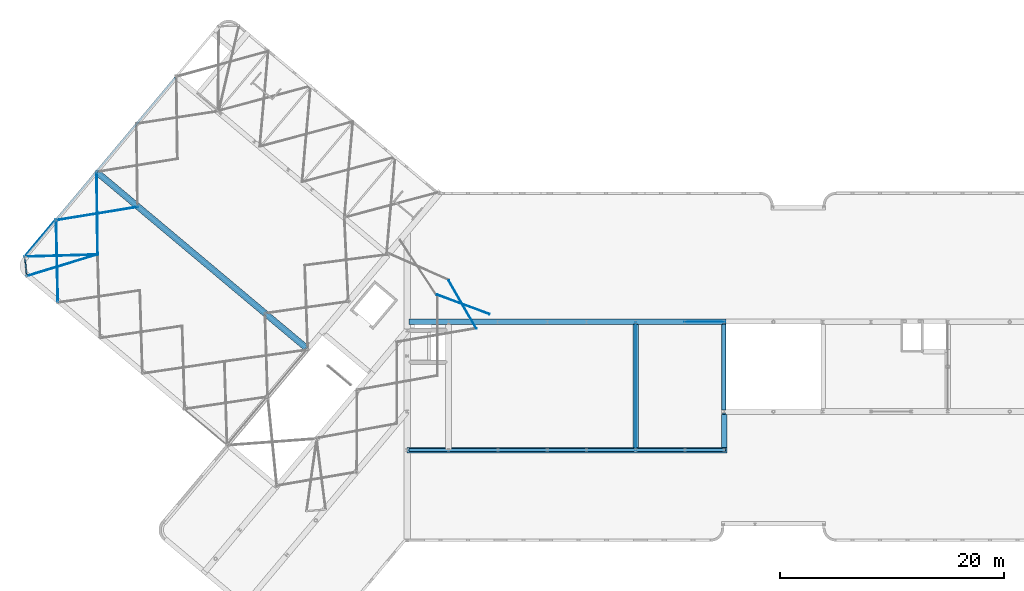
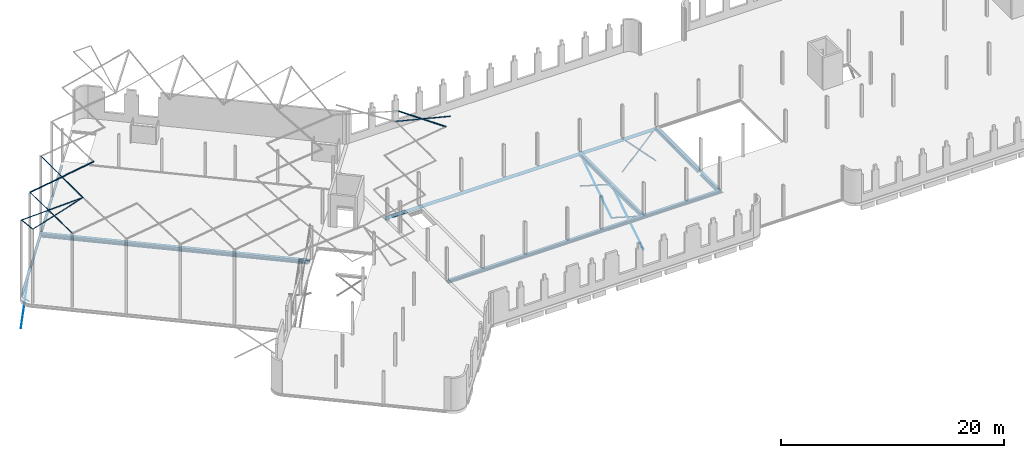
# One storey, part 15 of 25: 28 beams.
"""IFC2X3 building model written with IfcOpenShell, lengths in millimetres."""

from ifc_helpers import new_model, entity, si_unit, converted_unit, derived_unit, direction, frame, frame_2d, origin, origin_2d_with_axis, place, context, subcontext, project, spatial, polyline, circle_curve, parameter, trimmed, segment, composite_curve, rectangle, i_section, outline, extrude, material, type_object, element, save


model = new_model("IFC2X3")

# Units and contexts
model_context = context("Model", 3, precision=0.01, world=origin(), true_north=direction((6.123031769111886e-17, 1.0)))
body_context = subcontext(model_context, "Body", "Model", "MODEL_VIEW")
ifc_project = project(units=[si_unit("LENGTHUNIT", "METRE", prefix="MILLI"), si_unit("AREAUNIT", "SQUARE_METRE"), si_unit("VOLUMEUNIT", "CUBIC_METRE"), derived_unit("MASSDENSITYUNIT", [(si_unit("MASSUNIT", "GRAM", prefix="KILO"), 1), (si_unit("LENGTHUNIT", "METRE"), -3)]), si_unit("MASSUNIT", "GRAM", prefix="KILO"), converted_unit("PLANEANGLEUNIT", "DEGREE", entity("IfcPlaneAngleMeasure", 0.017453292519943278), si_unit("PLANEANGLEUNIT", "RADIAN"), dimensions=[0, 0, 0, 0, 0, 0, 0])], contexts=[model_context])

# Site, building, storey
site_placement = place(None, origin())
site = spatial("IfcSite", under=ifc_project, at=site_placement, Name="Default", CompositionType="ELEMENT")
building_placement = place(site_placement, origin())
building = spatial("IfcBuilding", under=site, at=building_placement, Name="AT constructie", CompositionType="ELEMENT")
storey_placement = place(building_placement, frame((0.0, 0.0, 3864.0)))
storey = spatial("IfcBuildingStorey", under=building, at=storey_placement, Name="01 eerste verdieping", CompositionType="ELEMENT", Elevation=3864.0)

# Beams
ifc_material = material(Name="h2_staal_S355")
beam_type_1 = type_object("IfcBeamType", Name="balk strip liggend_gen_500x15", PredefinedType="NOTDEFINED")
beam_1_placement = place(storey_placement, frame((41296.874631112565, 31271.043508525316, 0.0)))
element("IfcBeam", 1, at=beam_1_placement, inside=storey, type_object=beam_type_1, material=ifc_material, Name="NLRS_28_SF_LIB_balk strip_gen_AT:balk strip liggend_gen_500x15", ObjectType="NLRS_28_SF_LIB_balk strip_gen_AT:balk strip liggend_gen_500x15", context=body_context, shape_type="SweptSolid", body=[
    extrude(rectangle(XDim=14.999999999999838, YDim=499.999999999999, at=frame_2d((0.0, 4.334310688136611e-12), x_axis=(1.0, 0.0))), frame((0.0, 0.0, -377.50000000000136), z_axis=(1.0, 0.0, 0.0), x_axis=(0.0, 0.0, -1.0)), (0.0, 0.0, 1.0), 28299.99999939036),
])
beam_2_placement = place(storey_placement, frame((41146.87463111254, 19821.043508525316, 0.0)))
element("IfcBeam", 2, at=beam_2_placement, inside=storey, type_object=beam_type_1, material=ifc_material, Name="NLRS_28_SF_LIB_balk strip_gen_AT:balk strip liggend_gen_500x15", ObjectType="NLRS_28_SF_LIB_balk strip_gen_AT:balk strip liggend_gen_500x15", context=body_context, shape_type="SweptSolid", body=[
    extrude(rectangle(XDim=14.999999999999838, YDim=499.999999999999, at=origin_2d_with_axis()), frame((6.096022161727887e-07, 0.0, -377.50000000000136), z_axis=(1.0, 0.0, 0.0), x_axis=(0.0, 0.0, -1.0)), (0.0, 0.0, 1.0), 28549.99999939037),
])
beam_3_placement = place(storey_placement, frame((69446.87463111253, 23021.043508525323, 0.0), z_axis=(0.0, 0.0, 1.0), x_axis=(0.0, -1.0, 0.0)))
element("IfcBeam", 3, at=beam_3_placement, inside=storey, type_object=beam_type_1, material=ifc_material, Name="NLRS_28_SF_LIB_balk strip_gen_AT:balk strip liggend_gen_500x15", ObjectType="NLRS_28_SF_LIB_balk strip_gen_AT:balk strip liggend_gen_500x15", context=body_context, shape_type="SweptSolid", body=[
    extrude(rectangle(XDim=14.999999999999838, YDim=499.999999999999, at=frame_2d((0.0, -4.334310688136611e-12), x_axis=(1.0, 0.0))), frame((0.0, 0.0, -377.50000000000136), z_axis=(1.0, 0.0, 0.0), x_axis=(0.0, 0.0, -1.0)), (0.0, 0.0, 1.0), 2950.0000000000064),
])
beam_4_placement = place(storey_placement, frame((61546.87463111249, 31021.04350852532, 0.0), z_axis=(0.0, 0.0, 1.0), x_axis=(0.0, -1.0, 0.0)))
element("IfcBeam", 4, at=beam_4_placement, inside=storey, type_object=beam_type_1, material=ifc_material, Name="NLRS_28_SF_LIB_balk strip_gen_AT:balk strip liggend_gen_500x15", ObjectType="NLRS_28_SF_LIB_balk strip_gen_AT:balk strip liggend_gen_500x15", context=body_context, shape_type="SweptSolid", body=[
    extrude(rectangle(XDim=14.999999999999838, YDim=499.999999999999, at=frame_2d((0.0, -4.334310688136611e-12), x_axis=(1.0, 0.0))), frame((0.0, 0.0, -377.50000000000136), z_axis=(1.0, 0.0, 0.0), x_axis=(0.0, 0.0, -1.0)), (0.0, 0.0, 1.0), 10949.99999999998),
])
beam_type_2 = type_object("IfcBeamType", Name="balk HE_gen_HEB260", PredefinedType="NOTDEFINED")
beam_5_placement = place(storey_placement, frame((41296.874631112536, 19821.043508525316, 0.0)))
element("IfcBeam", 5, at=beam_5_placement, inside=storey, type_object=beam_type_2, material=ifc_material, Name="NLRS_28_SF_LIB_balk HEB_gen_AT:balk HE_gen_HEB260", ObjectType="NLRS_28_SF_LIB_balk HEB_gen_AT:balk HE_gen_HEB260", context=body_context, shape_type="SweptSolid", body=[
    extrude(i_section(OverallWidth=260.00000000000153, OverallDepth=259.9999999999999, WebThickness=9.999999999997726, FlangeThickness=17.49999999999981, FilletRadius=23.99999999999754, at=frame_2d((2.7000623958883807e-13, 4.320099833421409e-12), x_axis=(0.0, 1.0))), frame((0.0, 0.0, -240.0), z_axis=(1.0, 0.0, 0.0), x_axis=(0.0, 0.0, -1.0)), (0.0, 0.0, 1.0), 28279.99999999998),
])
beam_6_placement = place(storey_placement, frame((69446.87463111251, 31141.043508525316, 0.0), z_axis=(0.0, 0.0, 1.0), x_axis=(0.0, -1.0, 0.0)))
element("IfcBeam", 6, at=beam_6_placement, inside=storey, type_object=beam_type_2, material=ifc_material, Name="NLRS_28_SF_LIB_balk HEB_gen_AT:balk HE_gen_HEB260", ObjectType="NLRS_28_SF_LIB_balk HEB_gen_AT:balk HE_gen_HEB260", context=body_context, shape_type="SweptSolid", body=[
    extrude(i_section(OverallWidth=259.9999999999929, OverallDepth=259.9999999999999, WebThickness=9.999999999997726, FlangeThickness=17.49999999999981, FilletRadius=24.000000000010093, at=frame_2d((2.7000623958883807e-13, 4.320099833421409e-12), x_axis=(0.0, 1.0))), frame((0.0, 0.0, -240.0), z_axis=(1.0, 0.0, 0.0), x_axis=(0.0, 0.0, -1.0)), (0.0, 0.0, 1.0), 7740.0),
])
beam_7_placement = place(storey_placement, frame((69446.8746311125, 23141.043508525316, 0.0), z_axis=(0.0, 0.0, 1.0), x_axis=(0.0, -1.0, 0.0)))
element("IfcBeam", 7, at=beam_7_placement, inside=storey, type_object=beam_type_2, material=ifc_material, Name="NLRS_28_SF_LIB_balk HEB_gen_AT:balk HE_gen_HEB260", ObjectType="NLRS_28_SF_LIB_balk HEB_gen_AT:balk HE_gen_HEB260", context=body_context, shape_type="SweptSolid", body=[
    extrude(i_section(OverallWidth=260.00000000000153, OverallDepth=259.9999999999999, WebThickness=9.999999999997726, FlangeThickness=17.49999999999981, FilletRadius=24.000000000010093, at=frame_2d((2.7000623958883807e-13, 4.320099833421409e-12), x_axis=(0.0, 1.0))), frame((0.0, 0.0, -240.0), z_axis=(1.0, 0.0, 0.0), x_axis=(0.0, 0.0, -1.0)), (0.0, 0.0, 1.0), 3189.9999999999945),
])
beam_8_placement = place(storey_placement, frame((61546.87463111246, 31141.04350852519, 0.0), z_axis=(0.0, 0.0, 1.0), x_axis=(0.0, -1.0, 0.0)))
element("IfcBeam", 8, at=beam_8_placement, inside=storey, type_object=beam_type_2, material=ifc_material, Name="NLRS_28_SF_LIB_balk HEB_gen_AT:balk HE_gen_HEB260", ObjectType="NLRS_28_SF_LIB_balk HEB_gen_AT:balk HE_gen_HEB260", context=body_context, shape_type="SweptSolid", body=[
    extrude(i_section(OverallWidth=259.9999999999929, OverallDepth=259.9999999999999, WebThickness=9.999999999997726, FlangeThickness=17.50000000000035, FilletRadius=24.0, at=frame_2d((2.7000623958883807e-13, -8.65441052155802e-12), x_axis=(0.0, 1.0))), frame((0.0, 0.0, -240.0), z_axis=(1.0, 0.0, 0.0), x_axis=(0.0, 0.0, -1.0)), (0.0, 0.0, 1.0), 11189.999999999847),
])
beam_type_3 = type_object("IfcBeamType", Name="balk strip liggend_gen_400x15", PredefinedType="NOTDEFINED")
beam_9_placement = place(storey_placement, frame((69396.87463111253, 31021.043508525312, 0.0), z_axis=(0.0, 0.0, 1.0), x_axis=(0.0, -1.0, 0.0)))
element("IfcBeam", 9, at=beam_9_placement, inside=storey, type_object=beam_type_3, material=ifc_material, Name="NLRS_28_SF_LIB_balk strip_gen_AT:balk strip liggend_gen_400x15", ObjectType="NLRS_28_SF_LIB_balk strip_gen_AT:balk strip liggend_gen_400x15", context=body_context, shape_type="SweptSolid", body=[
    extrude(rectangle(XDim=14.999999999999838, YDim=400.0000000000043, at=frame_2d((0.0, 4.334310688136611e-12), x_axis=(1.0, 0.0))), frame((0.0, 0.0, -377.50000000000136), z_axis=(1.0, 0.0, 0.0), x_axis=(0.0, 0.0, -1.0)), (0.0, 0.0, 1.0), 7599.999999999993),
])
beam_type_4 = type_object("IfcBeamType", Name="balk HE_gen_HEB320", PredefinedType="NOTDEFINED")
beam_10_placement = place(storey_placement, frame((13323.429675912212, 44743.48184549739, 0.0), z_axis=(0.0, 0.0, 1.0), x_axis=(0.7660444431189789, -0.6427876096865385, 0.0)))
element("IfcBeam", 10, at=beam_10_placement, inside=storey, type_object=beam_type_4, material=ifc_material, Name="NLRS_28_SF_LIB_balk HEB_gen_AT:balk HE_gen_HEB320", ObjectType="NLRS_28_SF_LIB_balk HEB_gen_AT:balk HE_gen_HEB320", context=body_context, shape_type="SweptSolid", body=[
    extrude(i_section(OverallWidth=299.9999999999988, OverallDepth=319.9999999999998, WebThickness=11.499999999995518, FlangeThickness=20.500000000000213, FilletRadius=26.99999999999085, at=frame_2d((-1.0942358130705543e-12, 5.4143356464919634e-12), x_axis=(0.0, 1.0))), frame((0.0, 0.0, -431.0), z_axis=(1.0, 0.0, 0.0), x_axis=(0.0, 0.0, -1.0)), (0.0, 0.0, 1.0), 24637.49999999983),
])
beam_type_5 = type_object("IfcBeamType", Name="balk strip liggend_gen_560x20", PredefinedType="NOTDEFINED")
beam_11_placement = place(storey_placement, frame((13323.429675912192, 44743.48184549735, 0.0), z_axis=(0.0, 0.0, 1.0), x_axis=(0.7660444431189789, -0.6427876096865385, 0.0)))
element("IfcBeam", 11, at=beam_11_placement, inside=storey, type_object=beam_type_5, material=ifc_material, Name="NLRS_28_SF_LIB_balk strip_gen_AT:balk strip liggend_gen_560x20", ObjectType="NLRS_28_SF_LIB_balk strip_gen_AT:balk strip liggend_gen_560x20", context=body_context, shape_type="SweptSolid", body=[
    extrude(rectangle(XDim=19.999999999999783, YDim=559.9999999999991, at=origin_2d_with_axis()), frame((0.0, 0.0, -601.0), z_axis=(1.0, 0.0, 0.0), x_axis=(0.0, 0.0, -1.0)), (0.0, 0.0, 1.0), 24517.499999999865),
])
beam_type_6 = type_object("IfcBeamType", Name="balk HE_gen_HEA180", PredefinedType="NOTDEFINED")
beam_12_placement = place(storey_placement, frame((7105.844594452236, 37174.19079515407, 0.0), z_axis=(0.0, 0.0, 1.0), x_axis=(0.6427876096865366, 0.7660444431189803, 0.0)))
element("IfcBeam", 12, at=beam_12_placement, inside=storey, type_object=beam_type_6, material=ifc_material, Name="NLRS_28_SF_LIB_balk HEA_gen_AT:balk HE_gen_HEA180", ObjectType="NLRS_28_SF_LIB_balk HEA_gen_AT:balk HE_gen_HEA180", context=body_context, shape_type="SweptSolid", body=[
    extrude(i_section(OverallWidth=179.9999999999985, OverallDepth=171.0000000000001, WebThickness=6.000000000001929, FlangeThickness=9.500000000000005, FilletRadius=15.00000000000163, at=frame_2d((0.0, -1.6555645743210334e-12), x_axis=(0.0, 1.0))), frame((0.0, 0.0, -505.4999999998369), z_axis=(1.0, 0.0, 0.0), x_axis=(0.0, 0.0, -1.0)), (0.0, 0.0, 1.0), 20770.00000000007),
])
beam_type_7 = type_object("IfcBeamType", Name="balk strip liggend_gen_120x10", PredefinedType="NOTDEFINED")
beam_13_placement = place(storey_placement, frame((9744.136482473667, 40403.9494414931, -505.49999999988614), z_axis=(-0.3992921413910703, -0.47585784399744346, 0.7836613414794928), x_axis=(-0.5037278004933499, -0.6003194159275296, -0.6211882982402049)))
element("IfcBeam", 13, at=beam_13_placement, inside=storey, type_object=beam_type_7, material=ifc_material, Name="NLRS_28_SF_LIB_balk strip_gen_AT:balk strip liggend_gen_120x10", ObjectType="NLRS_28_SF_LIB_balk strip_gen_AT:balk strip liggend_gen_120x10", context=body_context, shape_type="SweptSolid", body=[
    extrude(rectangle(XDim=119.99999999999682, YDim=10.000000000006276, at=frame_2d((4.934719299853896e-12, -9.300560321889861e-12), x_axis=(1.0, 0.0))), frame((0.0, -5.0, 0.0), z_axis=(1.0, 0.0, 0.0), x_axis=(0.0, 0.0, -1.0)), (0.0, 0.0, 1.0), 5487.064082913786),
])
beam_14_placement = place(storey_placement, frame((6980.149760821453, 37109.95833608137, -428.97382198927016), z_axis=(0.40472656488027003, 0.48233433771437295, 0.7768848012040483), x_axis=(0.4993719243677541, 0.5951282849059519, -0.6296427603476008)))
element("IfcBeam", 14, at=beam_14_placement, inside=storey, type_object=beam_type_7, material=ifc_material, Name="NLRS_28_SF_LIB_balk strip_gen_AT:balk strip liggend_gen_120x10", ObjectType="NLRS_28_SF_LIB_balk strip_gen_AT:balk strip liggend_gen_120x10", context=body_context, shape_type="SweptSolid", body=[
    extrude(rectangle(XDim=120.00000000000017, YDim=10.000000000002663, at=frame_2d((-1.886490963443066e-12, 1.3917755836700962e-12), x_axis=(1.0, 0.0))), frame((0.0, 5.0, 0.0), z_axis=(1.0, 0.0, 0.0), x_axis=(0.0, 0.0, -1.0)), (0.0, 0.0, 1.0), 5534.926147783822),
])
beam_15_placement = place(storey_placement, frame((65946.87463111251, 31281.04350854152, -240.0), z_axis=(0.7240441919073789, 0.0, 0.689753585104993), x_axis=(0.689753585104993, 0.0, -0.7240441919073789)))
element("IfcBeam", 15, at=beam_15_placement, inside=storey, type_object=beam_type_7, material=ifc_material, Name="NLRS_28_SF_LIB_balk strip_gen_AT:balk strip liggend_gen_120x10", ObjectType="NLRS_28_SF_LIB_balk strip_gen_AT:balk strip liggend_gen_120x10", context=body_context, shape_type="SweptSolid", body=[
    extrude(rectangle(XDim=120.00000000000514, YDim=10.000000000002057, at=frame_2d((1.8829382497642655e-13, -4.331646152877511e-12), x_axis=(1.0, 0.0))), frame((0.0, -5.0, 0.0), z_axis=(1.0, 0.0, 0.0), x_axis=(0.0, 0.0, -1.0)), (0.0, 0.0, 1.0), 5074.275908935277),
])
beam_16_placement = place(storey_placement, frame((69512.64276366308, 31281.04350852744, -170.96225171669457), z_axis=(0.7240441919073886, 0.0, -0.689753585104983), x_axis=(-0.689753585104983, 0.0, -0.7240441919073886)))
element("IfcBeam", 16, at=beam_16_placement, inside=storey, type_object=beam_type_7, material=ifc_material, Name="NLRS_28_SF_LIB_balk strip_gen_AT:balk strip liggend_gen_120x10", ObjectType="NLRS_28_SF_LIB_balk strip_gen_AT:balk strip liggend_gen_120x10", context=body_context, shape_type="SweptSolid", body=[
    extrude(rectangle(XDim=120.00000000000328, YDim=10.000000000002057, at=frame_2d((1.8829382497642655e-13, -2.1658230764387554e-12), x_axis=(1.0, 0.0))), frame((0.0, -5.0, 0.0), z_axis=(1.0, 0.0, 0.0), x_axis=(0.0, 0.0, -1.0)), (0.0, 0.0, 1.0), 5169.626094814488),
])
beam_17_placement = place(storey_placement, frame((61551.8746311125, 31271.04350852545, -240.0), z_axis=(0.0, -0.5400961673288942, 0.8416033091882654), x_axis=(0.0, -0.8416033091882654, -0.5400961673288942)))
element("IfcBeam", 17, at=beam_17_placement, inside=storey, type_object=beam_type_7, material=ifc_material, Name="NLRS_28_SF_LIB_balk strip_gen_AT:balk strip liggend_gen_120x10", ObjectType="NLRS_28_SF_LIB_balk strip_gen_AT:balk strip liggend_gen_120x10", context=body_context, shape_type="SweptSolid", body=[
    extrude(rectangle(XDim=119.99999999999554, YDim=9.999999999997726, at=frame_2d((1.3677947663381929e-12, 4.331646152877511e-12), x_axis=(1.0, 0.0))), frame((0.0, -5.0, 0.0), z_axis=(1.0, 0.0, 0.0), x_axis=(0.0, 0.0, -1.0)), (0.0, 0.0, 1.0), 6802.492263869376),
])
beam_18_placement = place(storey_placement, frame((61551.8746311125, 25546.043508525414, -240.0), z_axis=(0.0, 0.5400961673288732, 0.8416033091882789), x_axis=(0.0, 0.8416033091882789, -0.5400961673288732)))
element("IfcBeam", 18, at=beam_18_placement, inside=storey, type_object=beam_type_7, material=ifc_material, Name="NLRS_28_SF_LIB_balk strip_gen_AT:balk strip liggend_gen_120x10", ObjectType="NLRS_28_SF_LIB_balk strip_gen_AT:balk strip liggend_gen_120x10", context=body_context, shape_type="SweptSolid", body=[
    extrude(rectangle(XDim=119.99999999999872, YDim=9.999999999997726, at=frame_2d((-4.547473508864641e-13, 0.0), x_axis=(1.0, 0.0))), frame((0.0, 5.0, 0.0), z_axis=(1.0, 0.0, 0.0), x_axis=(0.0, 0.0, -1.0)), (0.0, 0.0, 1.0), 6802.492263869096),
])
beam_19_placement = place(storey_placement, frame((61551.87463111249, 25546.043508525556, -240.0), z_axis=(0.0, -0.5400961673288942, 0.8416033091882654), x_axis=(0.0, -0.8416033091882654, -0.5400961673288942)))
element("IfcBeam", 19, at=beam_19_placement, inside=storey, type_object=beam_type_7, material=ifc_material, Name="NLRS_28_SF_LIB_balk strip_gen_AT:balk strip liggend_gen_120x10", ObjectType="NLRS_28_SF_LIB_balk strip_gen_AT:balk strip liggend_gen_120x10", context=body_context, shape_type="SweptSolid", body=[
    extrude(rectangle(XDim=119.99999999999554, YDim=9.999999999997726, at=frame_2d((1.3677947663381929e-12, 4.331646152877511e-12), x_axis=(1.0, 0.0))), frame((0.0, -5.0, 0.0), z_axis=(1.0, 0.0, 0.0), x_axis=(0.0, 0.0, -1.0)), (0.0, 0.0, 1.0), 6802.492263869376),
])
beam_20_placement = place(storey_placement, frame((61551.87463111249, 19821.04350852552, -240.0), z_axis=(0.0, 0.5400961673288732, 0.8416033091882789), x_axis=(0.0, 0.8416033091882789, -0.5400961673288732)))
element("IfcBeam", 20, at=beam_20_placement, inside=storey, type_object=beam_type_7, material=ifc_material, Name="NLRS_28_SF_LIB_balk strip_gen_AT:balk strip liggend_gen_120x10", ObjectType="NLRS_28_SF_LIB_balk strip_gen_AT:balk strip liggend_gen_120x10", context=body_context, shape_type="SweptSolid", body=[
    extrude(rectangle(XDim=119.99999999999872, YDim=9.999999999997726, at=frame_2d((-4.547473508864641e-13, 0.0), x_axis=(1.0, 0.0))), frame((0.0, 5.0, 0.0), z_axis=(1.0, 0.0, 0.0), x_axis=(0.0, 0.0, -1.0)), (0.0, 0.0, 1.0), 6802.492263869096),
])
beam_type_8 = type_object("IfcBeamType", Name="balk_gen_K80x80x4", PredefinedType="NOTDEFINED")
beam_21_placement = place(storey_placement, frame((7184.022570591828, 35333.2060313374, 8000.519610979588), z_axis=(0.0010576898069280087, -0.011183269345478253, 0.9999369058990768), x_axis=(-0.09415174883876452, 0.9954944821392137, 0.011233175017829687)))
element("IfcBeam", 21, at=beam_21_placement, inside=storey, type_object=beam_type_8, material=ifc_material, Name="NLRS_28_SF_LIB_balk koker vierkant_gen_AT:balk_gen_K80x80x4", ObjectType="NLRS_28_SF_LIB_balk koker vierkant_gen_AT:balk_gen_K80x80x4", context=body_context, shape_type="SweptSolid", body=[
    extrude(outline(composite_curve([segment(polyline([(-31.0, -40.0), (31.0, -40.0)]), True, "CONTINUOUS"), segment(trimmed(circle_curve(frame_2d((31.0, -31.0), x_axis=(0.0, -1.0)), 9.0), [parameter(359.9999999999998)], [parameter(89.99999999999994)], True, "PARAMETER"), True, "CONTINUOUS"), segment(polyline([(40.0, -31.0), (40.0, 31.0)]), True, "CONTINUOUS"), segment(trimmed(circle_curve(frame_2d((31.0, 31.0), x_axis=(0.0, -1.0)), 9.0), [parameter(90.0000000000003)], [parameter(180.00000000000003)], True, "PARAMETER"), True, "CONTINUOUS"), segment(polyline([(31.0, 40.0), (-31.0, 40.0)]), True, "CONTINUOUS"), segment(trimmed(circle_curve(frame_2d((-31.0, 31.0), x_axis=(0.0, -1.0)), 9.0), [parameter(179.99999999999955)], [parameter(269.9999999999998)], True, "PARAMETER"), True, "CONTINUOUS"), segment(polyline([(-40.0, 31.0), (-40.0, -31.0)]), True, "CONTINUOUS"), segment(trimmed(circle_curve(frame_2d((-31.0, -31.0), x_axis=(0.0, -1.0)), 9.0), [parameter(270.0000000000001)], [parameter(1.0177774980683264e-13)], True, "PARAMETER"), True, "CONTINUOUS")], self_intersect=False), holes=[composite_curve([segment(trimmed(circle_curve(frame_2d((-31.0, 31.0), x_axis=(0.0, -1.0)), 5.0), [parameter(180.0000000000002)], [parameter(270.0000000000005)], True, "PARAMETER"), False, "CONTINUOUS"), segment(polyline([(-31.0, 36.0), (31.0, 36.0)]), True, "CONTINUOUS"), segment(trimmed(circle_curve(frame_2d((31.0, 31.0), x_axis=(0.0, -1.0)), 5.0), [parameter(90.0000000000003)], [parameter(179.99999999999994)], True, "PARAMETER"), False, "CONTINUOUS"), segment(polyline([(36.0, 31.0), (36.0, -31.0)]), True, "CONTINUOUS"), segment(trimmed(circle_curve(frame_2d((31.0, -31.0), x_axis=(0.0, -1.0)), 5.0), [parameter(2.0355549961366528e-13)], [parameter(90.00000000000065)], True, "PARAMETER"), False, "CONTINUOUS"), segment(polyline([(31.0, -36.0), (-31.0, -36.0)]), True, "CONTINUOUS"), segment(trimmed(circle_curve(frame_2d((-31.0, -31.0), x_axis=(0.0, -1.0)), 5.0), [parameter(269.99999999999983)], [parameter(1.5266662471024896e-13)], True, "PARAMETER"), False, "CONTINUOUS"), segment(polyline([(-36.0, -31.0), (-36.0, 31.0)]), True, "CONTINUOUS")], self_intersect=False)]), frame((0.0, -0.6834909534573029, -59.996106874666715), z_axis=(1.0, 0.0, 0.0), x_axis=(0.0, -0.011391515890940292, -0.9999351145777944)), (0.0, 0.0, 1.0), 1756.6320149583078),
])
beam_type_9 = type_object("IfcBeamType", Name="balk_gen_L70x70x7", PredefinedType="NOTDEFINED")
beam_22_placement = place(storey_placement, frame((9939.292921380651, 33021.25969619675, 8000.519610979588), z_axis=(0.0002626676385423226, -0.012025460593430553, 0.9999276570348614), x_axis=(-0.021835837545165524, 0.999689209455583, 0.012028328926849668)))
element("IfcBeam", 22, at=beam_22_placement, inside=storey, type_object=beam_type_9, material=ifc_material, Name="NLRS_28_SF_LIB_balk hoeklijn_gen_AT:balk_gen_L70x70x7", ObjectType="NLRS_28_SF_LIB_balk hoeklijn_gen_AT:balk_gen_L70x70x7", context=body_context, shape_type="SweptSolid", body=[
    extrude(outline(composite_curve([segment(polyline([(-26.444444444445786, -26.444444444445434), (43.55555555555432, -26.444444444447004)]), True, "CONTINUOUS"), segment(polyline([(43.5555555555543, -26.444444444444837), (43.55555555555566, -23.944444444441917)]), True, "CONTINUOUS"), segment(trimmed(circle_curve(frame_2d((39.05555555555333, -23.944444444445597), x_axis=(1.0, 0.0)), 4.499999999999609), [parameter(0.0)], [parameter(89.99999999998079)], True, "PARAMETER"), True, "CONTINUOUS"), segment(polyline([(39.05555555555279, -19.4444444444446), (-10.444444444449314, -19.444444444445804)]), True, "CONTINUOUS"), segment(trimmed(circle_curve(frame_2d((-10.44444444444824, -10.444444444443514), x_axis=(0.0, -1.0)), 8.999999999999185), [parameter(270.0000000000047)], [parameter(0.0)], True, "PARAMETER"), False, "CONTINUOUS"), segment(polyline([(-19.444444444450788, -10.444444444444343), (-19.444444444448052, 39.055555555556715)]), True, "CONTINUOUS"), segment(trimmed(circle_curve(frame_2d((-23.944444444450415, 39.05555555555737), x_axis=(1.0, 0.0)), 4.49999999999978), [parameter(0.0)], [parameter(89.99999999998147)], True, "PARAMETER"), True, "CONTINUOUS"), segment(polyline([(-23.94444444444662, 43.55555555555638), (-26.444444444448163, 43.55555555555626)]), True, "CONTINUOUS"), segment(polyline([(-26.444444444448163, 43.55555555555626), (-26.44444444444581, -26.44444444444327)]), True, "CONTINUOUS")], self_intersect=False)), frame((0.0, -20.113775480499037, -63.34691071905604), z_axis=(1.0, 0.0, 0.0), x_axis=(0.0, 0.010548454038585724, 0.9999443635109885)), (0.0, 0.0, 1.0), 7352.327132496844),
])
beam_23_placement = place(storey_placement, frame((13485.95714816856, 37251.28742589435, 8088.841867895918), z_axis=(0.00014711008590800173, -0.012129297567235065, 0.9999264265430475), x_axis=(-0.012126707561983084, 0.9998528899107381, 0.012130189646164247)))
element("IfcBeam", 23, at=beam_23_placement, inside=storey, type_object=beam_type_9, material=ifc_material, Name="NLRS_28_SF_LIB_balk hoeklijn_gen_AT:balk_gen_L70x70x7", ObjectType="NLRS_28_SF_LIB_balk hoeklijn_gen_AT:balk_gen_L70x70x7", context=body_context, shape_type="SweptSolid", body=[
    extrude(outline(composite_curve([segment(polyline([(-26.44444444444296, -26.44444444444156), (43.555555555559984, -26.444444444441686)]), True, "CONTINUOUS"), segment(polyline([(43.555555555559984, -26.444444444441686), (43.555555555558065, -23.944444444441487)]), True, "CONTINUOUS"), segment(trimmed(circle_curve(frame_2d((39.05555555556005, -23.944444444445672), x_axis=(1.0, 0.0)), 4.500000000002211), [parameter(0.0)], [parameter(89.99999999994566)], True, "PARAMETER"), True, "CONTINUOUS"), segment(polyline([(39.055555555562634, -19.444444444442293), (-10.44444444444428, -19.444444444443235)]), True, "CONTINUOUS"), segment(trimmed(circle_curve(frame_2d((-10.44444444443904, -10.444444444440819), x_axis=(0.0, -1.0)), 9.000000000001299), [parameter(270.0000000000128)], [parameter(0.0)], True, "PARAMETER"), False, "CONTINUOUS"), segment(polyline([(-19.44444444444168, -10.44444444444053), (-19.44444444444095, 39.055555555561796)]), True, "CONTINUOUS"), segment(trimmed(circle_curve(frame_2d((-23.944444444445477, 39.05555555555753), x_axis=(1.0, 0.0)), 4.5000000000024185), [parameter(0.0)], [parameter(89.99999999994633)], True, "PARAMETER"), True, "CONTINUOUS"), segment(polyline([(-23.94444444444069, 43.55555555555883), (-26.4444444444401, 43.55555555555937)]), True, "CONTINUOUS"), segment(polyline([(-26.4444444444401, 43.55555555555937), (-26.444444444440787, -26.44444444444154)]), True, "CONTINUOUS")], self_intersect=False)), frame((0.0, -20.106344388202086, -63.34926974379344), z_axis=(1.0, 0.0, 0.0), x_axis=(0.0, 0.010431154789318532, 0.9999455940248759)), (0.0, 0.0, 1.0), 7432.057808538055),
])
beam_24_placement = place(storey_placement, frame((13485.95714816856, 37251.28742589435, 8088.841867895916), z_axis=(-0.01062416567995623, -0.00030231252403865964, 0.999943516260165), x_axis=(-0.9995389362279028, -0.028442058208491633, -0.010628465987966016)))
element("IfcBeam", 24, at=beam_24_placement, inside=storey, type_object=beam_type_9, material=ifc_material, Name="NLRS_28_SF_LIB_balk hoeklijn_gen_AT:balk_gen_L70x70x7", ObjectType="NLRS_28_SF_LIB_balk hoeklijn_gen_AT:balk_gen_L70x70x7", context=body_context, shape_type="SweptSolid", body=[
    extrude(outline(composite_curve([segment(polyline([(-26.44444444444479, -26.444444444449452), (43.55555555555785, -26.444444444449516)]), True, "CONTINUOUS"), segment(polyline([(43.555555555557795, -26.44444444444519), (43.55555555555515, -23.944444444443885)]), True, "CONTINUOUS"), segment(trimmed(circle_curve(frame_2d((39.05555555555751, -23.94444444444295), x_axis=(1.0, 0.0)), 4.499999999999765), [parameter(0.0)], [parameter(89.99999999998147)], True, "PARAMETER"), True, "CONTINUOUS"), segment(polyline([(39.05555555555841, -19.444444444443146), (-10.444444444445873, -19.444444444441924)]), True, "CONTINUOUS"), segment(trimmed(circle_curve(frame_2d((-10.444444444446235, -10.44444444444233), x_axis=(0.0, -1.0)), 8.999999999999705), [parameter(270.0000000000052)], [parameter(0.0)], True, "PARAMETER"), False, "CONTINUOUS"), segment(polyline([(-19.444444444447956, -10.444444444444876), (-19.444444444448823, 39.0555555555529)]), True, "CONTINUOUS"), segment(trimmed(circle_curve(frame_2d((-23.944444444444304, 39.05555555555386), x_axis=(1.0, 0.0)), 4.499999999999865), [parameter(0.0)], [parameter(89.99999999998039)], True, "PARAMETER"), True, "CONTINUOUS"), segment(polyline([(-23.944444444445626, 43.555555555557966), (-26.444444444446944, 43.55555555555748)]), True, "CONTINUOUS"), segment(polyline([(-26.444444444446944, 43.55555555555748), (-26.44444444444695, -26.44444444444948)]), True, "CONTINUOUS")], self_intersect=False)), frame((0.0, -20.20303186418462, -63.318500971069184), z_axis=(1.0, 0.0, 0.0), x_axis=(0.0, 0.011957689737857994, 0.9999285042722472)), (0.0, 0.0, 1.0), 6474.084598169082),
])
beam_25_placement = place(storey_placement, frame((9778.748700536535, 40371.301794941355, 8088.955820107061), z_axis=(-0.011963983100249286, -0.0019505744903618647, 0.9999265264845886), x_axis=(0.9868961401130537, 0.1609007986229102, 0.012121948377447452)))
element("IfcBeam", 25, at=beam_25_placement, inside=storey, type_object=beam_type_9, material=ifc_material, Name="NLRS_28_SF_LIB_balk hoeklijn_gen_AT:balk_gen_L70x70x7", ObjectType="NLRS_28_SF_LIB_balk hoeklijn_gen_AT:balk_gen_L70x70x7", context=body_context, shape_type="SweptSolid", body=[
    extrude(outline(composite_curve([segment(polyline([(-26.44444444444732, -26.44444444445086), (43.55555555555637, -26.44444444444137)]), True, "CONTINUOUS"), segment(polyline([(43.55555555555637, -26.44444444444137), (43.555555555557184, -23.944444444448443)]), True, "CONTINUOUS"), segment(trimmed(circle_curve(frame_2d((39.05555555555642, -23.944444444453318), x_axis=(1.0, 0.0)), 4.499999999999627), [parameter(0.0)], [parameter(89.99999999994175)], True, "PARAMETER"), True, "CONTINUOUS"), segment(polyline([(39.05555555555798, -19.444444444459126), (-10.444444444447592, -19.444444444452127)]), True, "CONTINUOUS"), segment(trimmed(circle_curve(frame_2d((-10.444444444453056, -10.44444444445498), x_axis=(0.0, -1.0)), 8.999999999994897), [parameter(269.99999999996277)], [parameter(0.0)], True, "PARAMETER"), False, "CONTINUOUS"), segment(polyline([(-19.444444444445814, -10.444444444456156), (-19.444444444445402, 39.05555555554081)]), True, "CONTINUOUS"), segment(trimmed(circle_curve(frame_2d((-23.944444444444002, 39.05555555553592), x_axis=(1.0, 0.0)), 4.500000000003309), [parameter(0.0)], [parameter(89.9999999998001)], True, "PARAMETER"), True, "CONTINUOUS"), segment(polyline([(-23.94444444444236, 43.555555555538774), (-26.444444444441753, 43.55555555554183)]), True, "CONTINUOUS"), segment(polyline([(-26.444444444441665, 43.5555555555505), (-26.444444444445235, -26.444444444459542)]), True, "CONTINUOUS")], self_intersect=False)), frame((0.0, -18.77981814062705, -63.75510561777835), z_axis=(1.0, 0.0, 0.0), x_axis=(0.0, -0.010440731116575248, 0.9999454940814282)), (0.0, 0.0, 1.0), 7428.193644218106),
])
beam_26_placement = place(storey_placement, frame((44886.94989499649, 34968.18338577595, 7974.194773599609), z_axis=(-0.002737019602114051, 0.004744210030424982, 0.9999850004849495), x_axis=(0.4997115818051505, -0.866174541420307, 0.005477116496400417)))
element("IfcBeam", 26, at=beam_26_placement, inside=storey, type_object=beam_type_9, material=ifc_material, Name="NLRS_28_SF_LIB_balk hoeklijn_gen_AT:balk_gen_L70x70x7", ObjectType="NLRS_28_SF_LIB_balk hoeklijn_gen_AT:balk_gen_L70x70x7", context=body_context, shape_type="SweptSolid", body=[
    extrude(outline(composite_curve([segment(polyline([(-26.444444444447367, -26.44444444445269), (43.55555555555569, -26.444444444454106)]), True, "CONTINUOUS"), segment(polyline([(43.555555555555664, -26.444444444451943), (43.555555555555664, -23.944444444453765)]), True, "CONTINUOUS"), segment(trimmed(circle_curve(frame_2d((39.05555555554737, -23.944444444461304), x_axis=(1.0, 0.0)), 4.500000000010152), [parameter(0.0)], [parameter(89.99999999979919)], True, "PARAMETER"), True, "CONTINUOUS"), segment(polyline([(39.05555555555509, -19.444444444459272), (-10.444444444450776, -19.44444444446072)]), True, "CONTINUOUS"), segment(trimmed(circle_curve(frame_2d((-10.44444444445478, -10.444444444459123), x_axis=(0.0, -1.0)), 8.999999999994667), [parameter(269.9999999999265)], [parameter(0.0)], True, "PARAMETER"), False, "CONTINUOUS"), segment(polyline([(-19.444444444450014, -10.444444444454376), (-19.4444444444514, 39.05555555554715)]), True, "CONTINUOUS"), segment(trimmed(circle_curve(frame_2d((-23.944444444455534, 39.055555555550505), x_axis=(1.0, 0.0)), 4.5000000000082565), [parameter(0.0)], [parameter(89.99999999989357)], True, "PARAMETER"), True, "CONTINUOUS"), segment(polyline([(-23.94444444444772, 43.55555555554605), (-26.44444444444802, 43.55555555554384)]), True, "CONTINUOUS"), segment(polyline([(-26.44444444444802, 43.55555555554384), (-26.44444444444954, -26.44444444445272)]), True, "CONTINUOUS")], self_intersect=False)), frame((0.0, -20.397575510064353, -63.25609832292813), z_axis=(1.0, 0.0, 0.0), x_axis=(0.0, 0.015031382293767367, 0.9998870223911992)), (0.0, 0.0, 1.0), 4949.085387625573),
])
beam_27_placement = place(storey_placement, frame((48495.467854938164, 31937.785852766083, 7974.225310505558), z_axis=(0.0050736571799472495, -0.0018713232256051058, 0.9999853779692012), x_axis=(-0.938204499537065, 0.3460391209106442, 0.005407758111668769)))
element("IfcBeam", 27, at=beam_27_placement, inside=storey, type_object=beam_type_9, material=ifc_material, Name="NLRS_28_SF_LIB_balk hoeklijn_gen_AT:balk_gen_L70x70x7", ObjectType="NLRS_28_SF_LIB_balk hoeklijn_gen_AT:balk_gen_L70x70x7", context=body_context, shape_type="SweptSolid", body=[
    extrude(outline(composite_curve([segment(polyline([(-26.444444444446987, -26.444444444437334), (43.55555555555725, -26.444444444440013)]), True, "CONTINUOUS"), segment(polyline([(43.55555555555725, -26.444444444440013), (43.555555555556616, -23.9444444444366)]), True, "CONTINUOUS"), segment(trimmed(circle_curve(frame_2d((39.05555555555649, -23.944444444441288), x_axis=(1.0, 0.0)), 4.500000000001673), [parameter(0.0)], [parameter(89.99999999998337)], True, "PARAMETER"), True, "CONTINUOUS"), segment(polyline([(39.05555555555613, -19.444444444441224), (-10.444444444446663, -19.44444444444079)]), True, "CONTINUOUS"), segment(trimmed(circle_curve(frame_2d((-10.444444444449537, -10.444444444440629), x_axis=(0.0, -1.0)), 8.999999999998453), [parameter(269.9999999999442)], [parameter(0.0)], True, "PARAMETER"), False, "CONTINUOUS"), segment(polyline([(-19.444444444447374, -10.444444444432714), (-19.44444444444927, 39.05555555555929)]), True, "CONTINUOUS"), segment(trimmed(circle_curve(frame_2d((-23.9444444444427, 39.055555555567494), x_axis=(1.0, 0.0)), 4.499999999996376), [parameter(0.0)], [parameter(90.00000000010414)], True, "PARAMETER"), True, "CONTINUOUS"), segment(polyline([(-23.944444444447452, 43.555555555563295), (-26.44444444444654, 43.555555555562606)]), True, "CONTINUOUS"), segment(polyline([(-26.44444444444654, 43.555555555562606), (-26.444444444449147, -26.444444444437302)]), True, "CONTINUOUS")], self_intersect=False)), frame((0.0, -18.48531805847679, -63.84111588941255), z_axis=(1.0, 0.0, 0.0), x_axis=(0.0, -0.015056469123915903, 0.9998866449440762)), (0.0, 0.0, 1.0), 5006.914095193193),
])
beam_28_placement = place(storey_placement, frame((13485.700030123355, 37260.28310873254, 8088.949481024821), z_axis=(-0.012831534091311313, -0.003923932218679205, 0.9999099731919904), x_axis=(-0.9561991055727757, -0.2924093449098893, -0.013418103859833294)))
element("IfcBeam", 28, at=beam_28_placement, inside=storey, type_object=beam_type_9, material=ifc_material, Name="NLRS_28_SF_LIB_balk hoeklijn_gen_AT:balk_gen_L70x70x7", ObjectType="NLRS_28_SF_LIB_balk hoeklijn_gen_AT:balk_gen_L70x70x7", context=body_context, shape_type="SweptSolid", body=[
    extrude(outline(composite_curve([segment(polyline([(-26.444444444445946, -26.44444444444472), (43.55555555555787, -26.444444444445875)]), True, "CONTINUOUS"), segment(polyline([(43.55555555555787, -26.444444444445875), (43.555555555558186, -23.944444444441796)]), True, "CONTINUOUS"), segment(trimmed(circle_curve(frame_2d((39.05555555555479, -23.94444444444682), x_axis=(1.0, 0.0)), 4.500000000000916), [parameter(0.0)], [parameter(89.99999999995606)], True, "PARAMETER"), True, "CONTINUOUS"), segment(polyline([(39.05555555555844, -19.44444444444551), (-10.444444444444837, -19.4444444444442)]), True, "CONTINUOUS"), segment(trimmed(circle_curve(frame_2d((-10.444444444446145, -10.444444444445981), x_axis=(0.0, -1.0)), 9.000000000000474), [parameter(270.00000000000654)], [parameter(0.0)], True, "PARAMETER"), False, "CONTINUOUS"), segment(polyline([(-19.44444444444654, -10.444444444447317), (-19.44444444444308, 39.05555555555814)]), True, "CONTINUOUS"), segment(trimmed(circle_curve(frame_2d((-23.944444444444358, 39.055555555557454), x_axis=(1.0, 0.0)), 4.500000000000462), [parameter(0.0)], [parameter(89.99999999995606)], True, "PARAMETER"), True, "CONTINUOUS"), segment(polyline([(-23.944444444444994, 43.5555555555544), (-26.444444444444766, 43.55555555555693)]), True, "CONTINUOUS"), segment(polyline([(-26.444444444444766, 43.55555555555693), (-26.444444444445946, -26.44444444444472)]), True, "CONTINUOUS")], self_intersect=False)), frame((0.0, -19.99741595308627, -63.383739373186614), z_axis=(1.0, 0.0, 0.0), x_axis=(0.0, 0.00871221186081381, 0.9999620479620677)), (0.0, 0.0, 1.0), 6590.340257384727),
])

save(model, "model.ifc")
